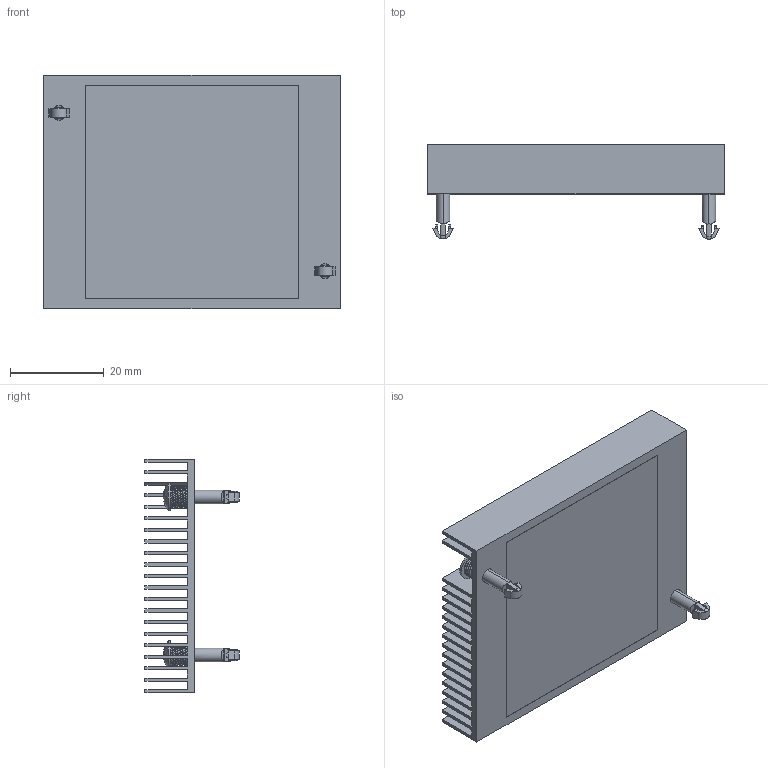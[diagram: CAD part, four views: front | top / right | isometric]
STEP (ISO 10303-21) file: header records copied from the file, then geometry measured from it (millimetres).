
FILE_DESCRIPTION (( 'STEP AP214' ), '1' );
FILE_NAME ('SZ00L+P.STEP', '2023-03-30T00:05:37', ( '' ), ( '' ), 'SwSTEP 2.0', 'SolidWorks 2020', '' );
FILE_SCHEMA (( 'AUTOMOTIVE_DESIGN' ));
Length unit declared in the file: millimetre
Products named in the file (1): SZ00L+P
Bounding box: 63.37 x 20.1 x 50 mm (x, y, z)
Volume: 13353.1 mm3; surface area: 34992.7 mm2
Topology: 4 solids, 4 shells, 218 faces, 598 edges, 384 vertices
Faces by surface type: plane 154, cylinder 38, bspline 26
Entity records: 14135 total; most frequent: CARTESIAN_POINT 6389, ORIENTED_EDGE 1180, DIRECTION 974, EDGE_CURVE 590, VECTOR 436, LINE 436, VERTEX_POINT 384, AXIS2_PLACEMENT_3D 269
